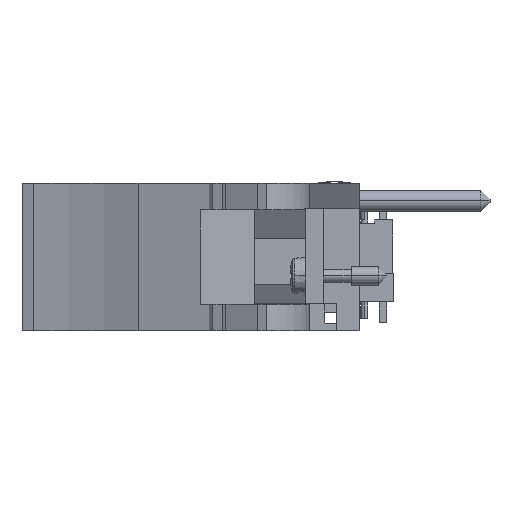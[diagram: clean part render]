
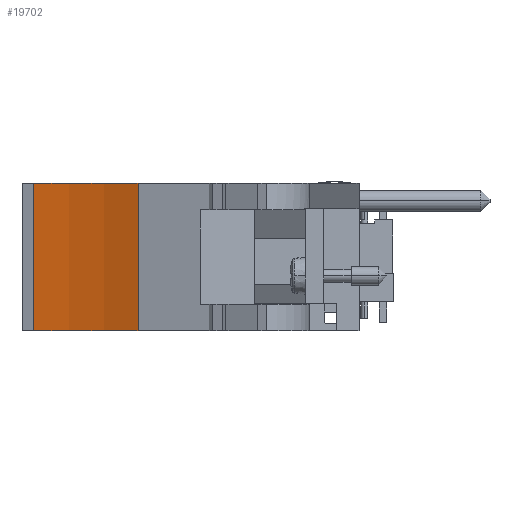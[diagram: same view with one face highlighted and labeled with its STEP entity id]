
A CAD part, front view. The second image highlights one B-rep face of the part: STEP entity #19702.
In plain terms, the highlighted cylindrical face has radius 51.46 mm (diameter 102.919 mm), a partial arc.
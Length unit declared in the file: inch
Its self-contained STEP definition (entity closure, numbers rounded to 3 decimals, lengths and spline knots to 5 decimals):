
#1289=CARTESIAN_POINT('',(-1.97633,-5.95079,0.695));
#1290=DIRECTION('',(0.,0.,1.));
#1291=DIRECTION('',(0.435,0.9,0.));
#1292=AXIS2_PLACEMENT_3D('',#1289,#1290,#1291);
#1634=CARTESIAN_POINT('',(-1.97633,-5.95079,-0.093));
#1635=DIRECTION('',(0.,0.,1.));
#1636=DIRECTION('',(0.435,0.9,0.));
#1637=AXIS2_PLACEMENT_3D('',#1634,#1635,#1636);
#1836=DIRECTION('',(0.,0.,1.));
#1837=VECTOR('',#1836,0.788);
#1838=CARTESIAN_POINT('',(-1.653,-3.95079,-0.093));
#1839=LINE('',#1838,#1837);
#1844=DIRECTION('',(0.,0.,1.));
#1845=VECTOR('',#1844,0.788);
#1846=CARTESIAN_POINT('',(-1.09503,-4.12655,-0.093));
#1847=LINE('',#1846,#1845);
#14222=CARTESIAN_POINT('',(-1.09503,-4.12655,-0.093));
#14223=CARTESIAN_POINT('',(-1.653,-3.95079,-0.093));
#14224=VERTEX_POINT('',#14222);
#14225=VERTEX_POINT('',#14223);
#14226=CARTESIAN_POINT('',(-1.09503,-4.12655,0.695));
#14227=CARTESIAN_POINT('',(-1.653,-3.95079,0.695));
#14228=VERTEX_POINT('',#14226);
#14229=VERTEX_POINT('',#14227);
#19690=CARTESIAN_POINT('',(-1.97633,-5.95079,0.695));
#19691=DIRECTION('',(0.,0.,1.));
#19692=DIRECTION('',(0.,1.,0.));
#19693=AXIS2_PLACEMENT_3D('',#19690,#19691,#19692);
#19694=CYLINDRICAL_SURFACE('',#19693,2.02597);
#19695=ORIENTED_EDGE('',*,*,#19418,.T.);
#19696=ORIENTED_EDGE('',*,*,#19682,.T.);
#19697=ORIENTED_EDGE('',*,*,#18967,.F.);
#19699=ORIENTED_EDGE('',*,*,#19698,.F.);
#19700=EDGE_LOOP('',(#19695,#19696,#19697,#19699));
#19701=FACE_OUTER_BOUND('',#19700,.F.);
#19702=ADVANCED_FACE('',(#19701),#19694,.F.);
#1293=CIRCLE('',#1292,2.02597);
#1638=CIRCLE('',#1637,2.02597);
#18967=EDGE_CURVE('',#14228,#14229,#1293,.T.);
#19418=EDGE_CURVE('',#14224,#14225,#1638,.T.);
#19682=EDGE_CURVE('',#14225,#14229,#1839,.T.);
#19698=EDGE_CURVE('',#14224,#14228,#1847,.T.);
